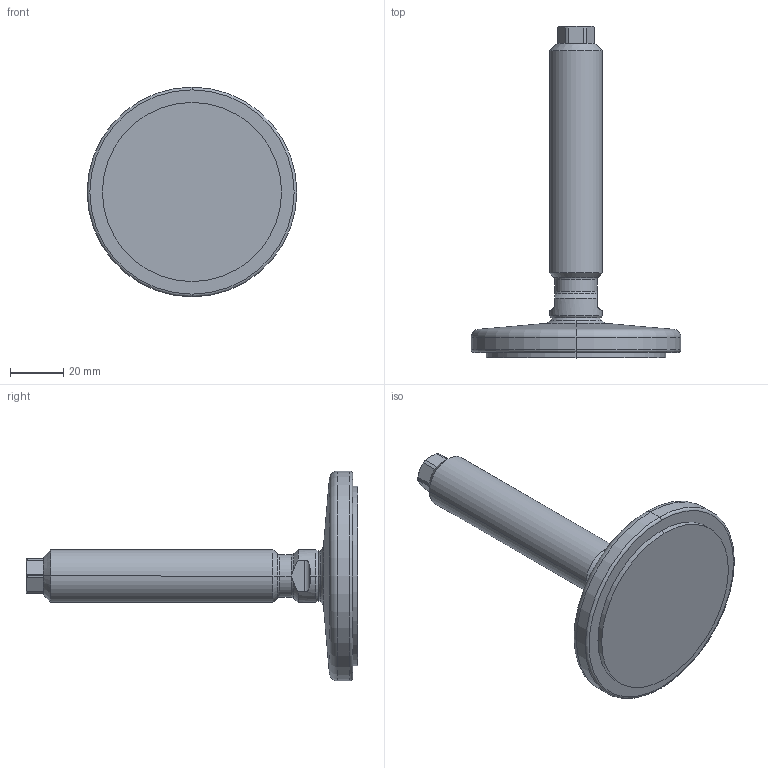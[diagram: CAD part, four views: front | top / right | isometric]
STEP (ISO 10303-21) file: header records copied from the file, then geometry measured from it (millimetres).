
FILE_DESCRIPTION (( 'STEP AP214' ), '1' );
FILE_NAME ('21-80-M20-100-D1-V.step', '2020-10-02T17:36:17', ( '' ), ( '' ), 'SwSTEP 2.0', 'SolidWorks 2019', '' );
FILE_SCHEMA (( 'AUTOMOTIVE_DESIGN' ));
Length unit declared in the file: millimetre
Products named in the file (3): WB21_Fußteller 21^WB21_V_D1-080-R12-B9 (M20); 21-80-M20-100-D1-V; WB21_Spindel_V^WB21_V_M20-100
Assembly tree (2 placements, depth 2):
  21-80-M20-100-D1-V
    WB21_Fußteller 21^WB21_V_D1-080-R12-B9 (M20)
    WB21_Spindel_V^WB21_V_M20-100
Bounding box: 79 x 125.02 x 79 mm (x, y, z)
Volume: 86678.4 mm3; surface area: 19645.1 mm2
Topology: 2 solids, 2 shells, 76 faces, 171 edges, 101 vertices
Faces by surface type: cylinder 25, plane 20, cone 17, torus 10, sphere 4
Entity records: 2387 total; most frequent: CARTESIAN_POINT 505, DIRECTION 390, ORIENTED_EDGE 342, EDGE_CURVE 171, AXIS2_PLACEMENT_3D 166, VERTEX_POINT 101, CIRCLE 85, EDGE_LOOP 78
